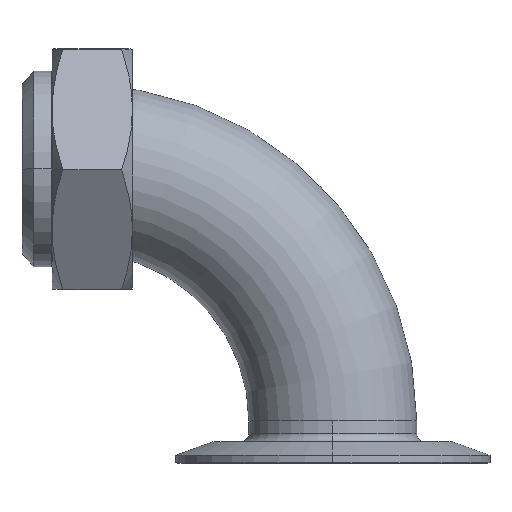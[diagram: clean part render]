
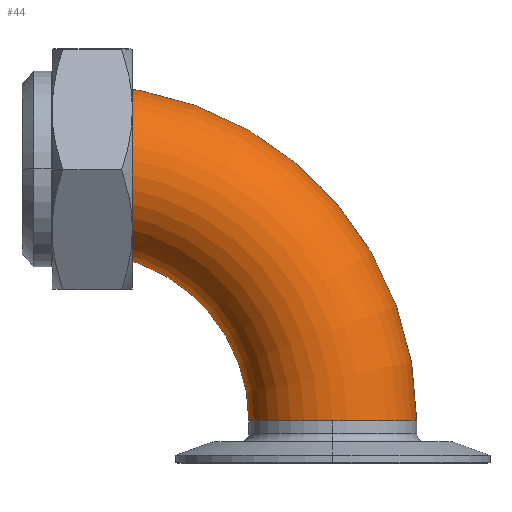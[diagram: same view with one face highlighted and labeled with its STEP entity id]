
A CAD part, top view. The second image highlights one B-rep face of the part: STEP entity #44.
In plain terms, the highlighted toroidal (fillet/blend) face has major radius 95.25 mm and minor radius 31.75 mm.
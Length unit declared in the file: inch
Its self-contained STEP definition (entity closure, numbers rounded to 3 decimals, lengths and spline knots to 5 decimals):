
#41 = CIRCLE ( 'NONE', #3061, 1.25 ) ;
#44 = ADVANCED_FACE ( 'NONE', ( #1084 ), #3445, .T. ) ;
#73 = AXIS2_PLACEMENT_3D ( 'NONE', #599, #2758, #914 ) ;
#138 = CARTESIAN_POINT ( 'NONE',  ( 5., 0., 0. ) ) ;
#202 = DIRECTION ( 'NONE',  ( -1., 0., 0. ) ) ;
#252 = EDGE_LOOP ( 'NONE', ( #2982, #3272, #2557, #863 ) ) ;
#408 = CIRCLE ( 'NONE', #878, 2.5 ) ;
#599 = CARTESIAN_POINT ( 'NONE',  ( 3.75, 0., 0. ) ) ;
#863 = ORIENTED_EDGE ( 'NONE', *, *, #3348, .T. ) ;
#878 = AXIS2_PLACEMENT_3D ( 'NONE', #1711, #3861, #2018 ) ;
#880 = CARTESIAN_POINT ( 'NONE',  ( 0., 3.75, 0. ) ) ;
#914 = DIRECTION ( 'NONE',  ( 0., 0., 1. ) ) ;
#1084 = FACE_OUTER_BOUND ( 'NONE', #252, .T. ) ;
#1197 = DIRECTION ( 'NONE',  ( 0., 0., 1. ) ) ;
#1311 = CARTESIAN_POINT ( 'NONE',  ( 0., 0., 0. ) ) ;
#1467 = VERTEX_POINT ( 'NONE', #2939 ) ;
#1595 = DIRECTION ( 'NONE',  ( 0., 0., -1. ) ) ;
#1711 = CARTESIAN_POINT ( 'NONE',  ( 0., 0., 0. ) ) ;
#2018 = DIRECTION ( 'NONE',  ( -1., 0., 0. ) ) ;
#2074 = DIRECTION ( 'NONE',  ( 0., 0., -1. ) ) ;
#2117 = VERTEX_POINT ( 'NONE', #3837 ) ;
#2152 = EDGE_CURVE ( 'NONE', #2117, #3045, #3851, .T. ) ;
#2500 = AXIS2_PLACEMENT_3D ( 'NONE', #3927, #2074, #202 ) ;
#2557 = ORIENTED_EDGE ( 'NONE', *, *, #3004, .T. ) ;
#2750 = AXIS2_PLACEMENT_3D ( 'NONE', #1311, #1595, #3465 ) ;
#2758 = DIRECTION ( 'NONE',  ( 0., 1., 0. ) ) ;
#2939 = CARTESIAN_POINT ( 'NONE',  ( 2.5, 0., 0. ) ) ;
#2982 = ORIENTED_EDGE ( 'NONE', *, *, #2152, .F. ) ;
#3004 = EDGE_CURVE ( 'NONE', #3219, #1467, #408, .T. ) ;
#3029 = DIRECTION ( 'NONE',  ( -1., 0., 0. ) ) ;
#3045 = VERTEX_POINT ( 'NONE', #138 ) ;
#3061 = AXIS2_PLACEMENT_3D ( 'NONE', #880, #3029, #1197 ) ;
#3202 = CARTESIAN_POINT ( 'NONE',  ( 0., 2.5, 0. ) ) ;
#3219 = VERTEX_POINT ( 'NONE', #3202 ) ;
#3272 = ORIENTED_EDGE ( 'NONE', *, *, #3316, .F. ) ;
#3316 = EDGE_CURVE ( 'NONE', #3219, #2117, #41, .T. ) ;
#3348 = EDGE_CURVE ( 'NONE', #1467, #3045, #3365, .T. ) ;
#3365 = CIRCLE ( 'NONE', #73, 1.25 ) ;
#3445 = TOROIDAL_SURFACE ( 'NONE', #2750, 3.75, 1.25 ) ;
#3465 = DIRECTION ( 'NONE',  ( -1., 0., 0. ) ) ;
#3837 = CARTESIAN_POINT ( 'NONE',  ( 0., 5., 0. ) ) ;
#3851 = CIRCLE ( 'NONE', #2500, 5. ) ;
#3861 = DIRECTION ( 'NONE',  ( 0., 0., -1. ) ) ;
#3927 = CARTESIAN_POINT ( 'NONE',  ( 0., 0., 0. ) ) ;
